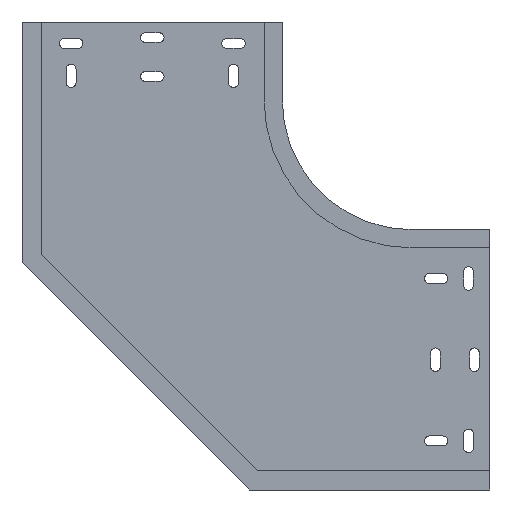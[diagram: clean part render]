
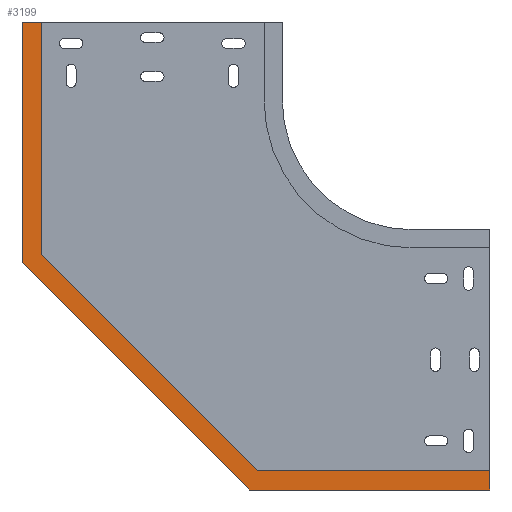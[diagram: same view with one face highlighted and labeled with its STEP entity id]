
A CAD part, front view. The second image highlights one B-rep face of the part: STEP entity #3199.
In plain terms, the highlighted planar face has unit normal (0, -1, 0).
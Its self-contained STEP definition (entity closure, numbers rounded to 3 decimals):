
#1 = PLANE ( 'NONE',  #2461 ) ;
#76 = ORIENTED_EDGE ( 'NONE', *, *, #5506, .F. ) ;
#95 = CARTESIAN_POINT ( 'NONE',  ( -345.362, -1., 181.576 ) ) ;
#126 = VECTOR ( 'NONE', #1210, 1000. ) ;
#222 = VERTEX_POINT ( 'NONE', #3848 ) ;
#284 = DIRECTION ( 'NONE',  ( 0., 0., -1. ) ) ;
#342 = VERTEX_POINT ( 'NONE', #95 ) ;
#348 = LINE ( 'NONE', #1134, #4519 ) ;
#422 = VERTEX_POINT ( 'NONE', #1503 ) ;
#706 = DIRECTION ( 'NONE',  ( -0.707, 0., 0.707 ) ) ;
#785 = CARTESIAN_POINT ( 'NONE',  ( -243.74, -1., 15. ) ) ;
#941 = VERTEX_POINT ( 'NONE', #2932 ) ;
#949 = EDGE_CURVE ( 'NONE', #4855, #941, #1176, .T. ) ;
#966 = DIRECTION ( 'NONE',  ( 1., 0., 0. ) ) ;
#1134 = CARTESIAN_POINT ( 'NONE',  ( 0., -1., 15. ) ) ;
#1176 = LINE ( 'NONE', #5108, #126 ) ;
#1210 = DIRECTION ( 'NONE',  ( -1., 0., 0. ) ) ;
#1324 = ORIENTED_EDGE ( 'NONE', *, *, #4412, .F. ) ;
#1356 = EDGE_CURVE ( 'NONE', #222, #4591, #4886, .T. ) ;
#1362 = ORIENTED_EDGE ( 'NONE', *, *, #2333, .F. ) ;
#1503 = CARTESIAN_POINT ( 'NONE',  ( -178.787, -1., 15. ) ) ;
#1578 = LINE ( 'NONE', #4164, #2609 ) ;
#1593 = DIRECTION ( 'NONE',  ( 1., 0., 0. ) ) ;
#1816 = VECTOR ( 'NONE', #4529, 1000. ) ;
#2061 = CARTESIAN_POINT ( 'NONE',  ( -243.74, -1., 15. ) ) ;
#2178 = DIRECTION ( 'NONE',  ( 0., -1., 0. ) ) ;
#2226 = DIRECTION ( 'NONE',  ( 0., 0., 1. ) ) ;
#2229 = ORIENTED_EDGE ( 'NONE', *, *, #949, .T. ) ;
#2333 = EDGE_CURVE ( 'NONE', #422, #3340, #3480, .T. ) ;
#2365 = EDGE_CURVE ( 'NONE', #342, #4855, #4662, .T. ) ;
#2461 = AXIS2_PLACEMENT_3D ( 'NONE', #2061, #2178, #4370 ) ;
#2542 = CARTESIAN_POINT ( 'NONE',  ( -345.362, -1., 181.576 ) ) ;
#2609 = VECTOR ( 'NONE', #706, 1000. ) ;
#2632 = CARTESIAN_POINT ( 'NONE',  ( -360.362, -1., 175.362 ) ) ;
#2743 = ORIENTED_EDGE ( 'NONE', *, *, #2365, .T. ) ;
#2932 = CARTESIAN_POINT ( 'NONE',  ( -360.362, -1., 360.362 ) ) ;
#2951 = EDGE_LOOP ( 'NONE', ( #1362, #4456, #2743, #2229, #1324, #76, #5193, #3966 ) ) ;
#3047 = VECTOR ( 'NONE', #966, 1000. ) ;
#3199 = ADVANCED_FACE ( 'NONE', ( #4642 ), #1, .T. ) ;
#3243 = VECTOR ( 'NONE', #2226, 1000. ) ;
#3279 = EDGE_CURVE ( 'NONE', #422, #342, #4469, .T. ) ;
#3340 = VERTEX_POINT ( 'NONE', #3998 ) ;
#3421 = VECTOR ( 'NONE', #1593, 1000. ) ;
#3480 = LINE ( 'NONE', #785, #3421 ) ;
#3554 = EDGE_CURVE ( 'NONE', #3340, #4591, #348, .T. ) ;
#3610 = CARTESIAN_POINT ( 'NONE',  ( -243.74, -1., 0. ) ) ;
#3692 = CARTESIAN_POINT ( 'NONE',  ( -345.362, -1., 360.362 ) ) ;
#3848 = CARTESIAN_POINT ( 'NONE',  ( -185., -1., 0. ) ) ;
#3966 = ORIENTED_EDGE ( 'NONE', *, *, #3554, .F. ) ;
#3998 = CARTESIAN_POINT ( 'NONE',  ( 0., -1., 15. ) ) ;
#4164 = CARTESIAN_POINT ( 'NONE',  ( -185., -1., 0. ) ) ;
#4296 = CARTESIAN_POINT ( 'NONE',  ( 0., -1., 0. ) ) ;
#4370 = DIRECTION ( 'NONE',  ( 0., 0., -1. ) ) ;
#4412 = EDGE_CURVE ( 'NONE', #4684, #941, #5285, .T. ) ;
#4454 = CARTESIAN_POINT ( 'NONE',  ( -360.362, -1., 175.362 ) ) ;
#4456 = ORIENTED_EDGE ( 'NONE', *, *, #3279, .T. ) ;
#4469 = LINE ( 'NONE', #5395, #1816 ) ;
#4519 = VECTOR ( 'NONE', #284, 1000. ) ;
#4529 = DIRECTION ( 'NONE',  ( -0.707, 0., 0.707 ) ) ;
#4591 = VERTEX_POINT ( 'NONE', #4296 ) ;
#4642 = FACE_OUTER_BOUND ( 'NONE', #2951, .T. ) ;
#4662 = LINE ( 'NONE', #2542, #4711 ) ;
#4684 = VERTEX_POINT ( 'NONE', #4454 ) ;
#4711 = VECTOR ( 'NONE', #4752, 1000. ) ;
#4752 = DIRECTION ( 'NONE',  ( 0., 0., 1. ) ) ;
#4855 = VERTEX_POINT ( 'NONE', #3692 ) ;
#4886 = LINE ( 'NONE', #3610, #3047 ) ;
#5108 = CARTESIAN_POINT ( 'NONE',  ( -278.313, -1., 360.362 ) ) ;
#5193 = ORIENTED_EDGE ( 'NONE', *, *, #1356, .T. ) ;
#5285 = LINE ( 'NONE', #2632, #3243 ) ;
#5395 = CARTESIAN_POINT ( 'NONE',  ( -178.787, -1., 15. ) ) ;
#5506 = EDGE_CURVE ( 'NONE', #222, #4684, #1578, .T. ) ;
